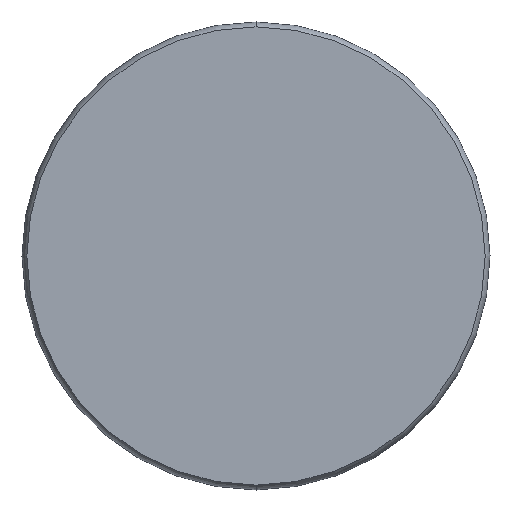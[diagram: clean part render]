
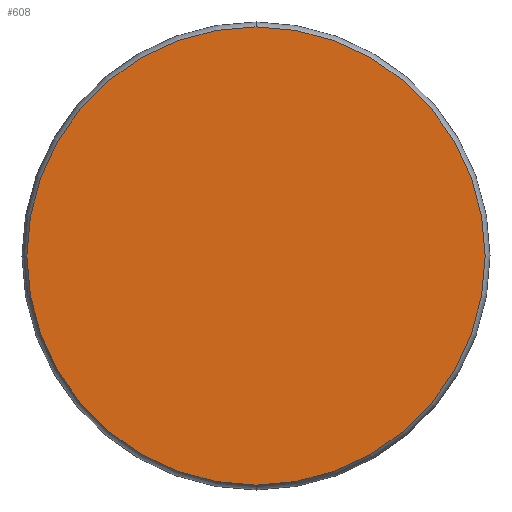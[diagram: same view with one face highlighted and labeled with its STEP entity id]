
A CAD part, front view. The second image highlights one B-rep face of the part: STEP entity #608.
In plain terms, the highlighted planar face has unit normal (0, -1, 0).
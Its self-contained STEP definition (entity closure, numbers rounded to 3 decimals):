
#17 = ORIENTED_EDGE ( 'NONE', *, *, #345, .F. ) ;
#40 = DIRECTION ( 'NONE',  ( 0., 1., 0. ) ) ;
#67 = FACE_OUTER_BOUND ( 'NONE', #674, .T. ) ;
#70 = AXIS2_PLACEMENT_3D ( 'NONE', #933, #708, #794 ) ;
#196 = AXIS2_PLACEMENT_3D ( 'NONE', #286, #961, #282 ) ;
#230 = VERTEX_POINT ( 'NONE', #726 ) ;
#237 = EDGE_CURVE ( 'NONE', #230, #642, #380, .T. ) ;
#248 = CARTESIAN_POINT ( 'NONE',  ( 0., 0., -7. ) ) ;
#282 = DIRECTION ( 'NONE',  ( 0., 0., 1. ) ) ;
#286 = CARTESIAN_POINT ( 'NONE',  ( 0., 0., 0. ) ) ;
#339 = DIRECTION ( 'NONE',  ( 0., 0., 1. ) ) ;
#345 = EDGE_CURVE ( 'NONE', #642, #230, #972, .T. ) ;
#348 = AXIS2_PLACEMENT_3D ( 'NONE', #805, #40, #339 ) ;
#380 = CIRCLE ( 'NONE', #348, 7. ) ;
#608 = ADVANCED_FACE ( 'NONE', ( #67 ), #714, .F. ) ;
#642 = VERTEX_POINT ( 'NONE', #248 ) ;
#674 = EDGE_LOOP ( 'NONE', ( #771, #17 ) ) ;
#708 = DIRECTION ( 'NONE',  ( 0., 1., 0. ) ) ;
#714 = PLANE ( 'NONE',  #70 ) ;
#726 = CARTESIAN_POINT ( 'NONE',  ( 0., 0., 7. ) ) ;
#771 = ORIENTED_EDGE ( 'NONE', *, *, #237, .F. ) ;
#794 = DIRECTION ( 'NONE',  ( 0., 0., 1. ) ) ;
#805 = CARTESIAN_POINT ( 'NONE',  ( 0., 0., 0. ) ) ;
#933 = CARTESIAN_POINT ( 'NONE',  ( 0., 0., -7. ) ) ;
#961 = DIRECTION ( 'NONE',  ( 0., 1., 0. ) ) ;
#972 = CIRCLE ( 'NONE', #196, 7. ) ;
